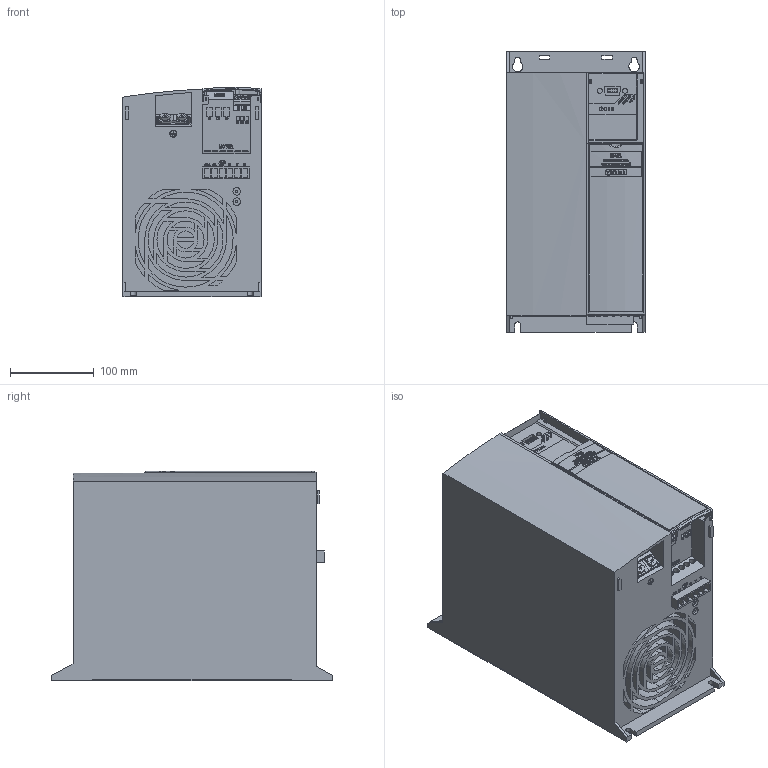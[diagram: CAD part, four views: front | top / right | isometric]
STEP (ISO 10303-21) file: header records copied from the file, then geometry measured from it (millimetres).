
FILE_DESCRIPTION (( 'STEP AP214' ), '1' );
FILE_NAME ('3D Ìîäåëü Ï×Â205.STEP', '2016-05-19T06:49:55', ( '' ), ( '' ), 'SwSTEP 2.0', 'SolidWorks 2014', '' );
FILE_SCHEMA (( 'AUTOMOTIVE_DESIGN' ));
Length unit declared in the file: millimetre
Products named in the file (6): DIP-ïåðåêëþ÷àòåëü 4ïîç smd; 抔樦憵 SMKDS 1-12-3,5; Êëåììà_10õ13õ5ìì ÷åðí; 署赅 献聏x5; 瓬謬05_膰豵鵨; 3D Ìîäåëü Ï×Â205
Assembly tree (7 placements, depth 2):
  3D Ìîäåëü Ï×Â205
    瓬謬05_膰豵鵨
    署赅 献聏x5
    Êëåììà_10õ13õ5ìì ÷åðí  x3
    抔樦憵 SMKDS 1-12-3,5
    DIP-ïåðåêëþ÷àòåëü 4ïîç smd
Bounding box: 165.25 x 335 x 250.18 mm (x, y, z)
Volume: 10866498.3 mm3; surface area: 721168 mm2
Topology: 19 solids, 20 shells, 3228 faces, 8331 edges, 5534 vertices
Faces by surface type: plane 2278, bspline 525, cylinder 401, torus 21, cone 3
Entity records: 152309 total; most frequent: CARTESIAN_POINT 60315, ORIENTED_EDGE 16222, DIRECTION 13121, EDGE_CURVE 8111, VECTOR 5657, LINE 5657, VERTEX_POINT 5390, AXIS2_PLACEMENT_3D 3732
